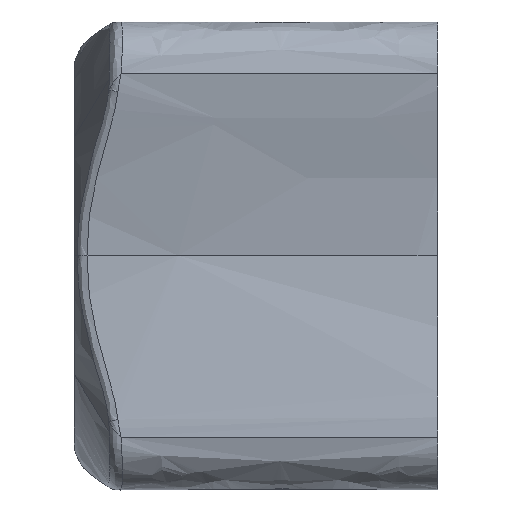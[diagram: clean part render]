
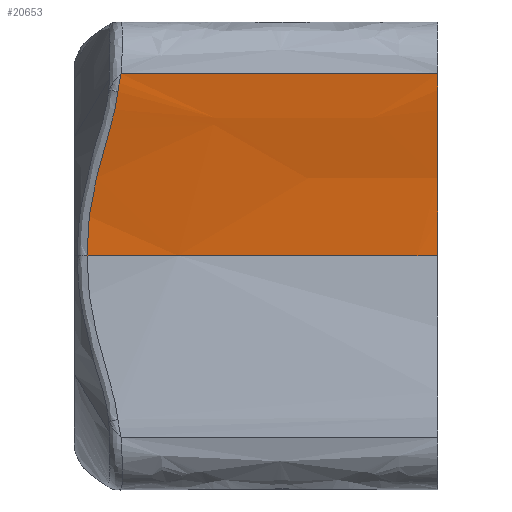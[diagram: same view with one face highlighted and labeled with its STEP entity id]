
A CAD part, top view. The second image highlights one B-rep face of the part: STEP entity #20653.
In plain terms, the highlighted free-form (B-spline) face has degree [5, 1] with [15, 2] control points.
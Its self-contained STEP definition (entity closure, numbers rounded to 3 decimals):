
#20=(
BOUNDED_CURVE()
B_SPLINE_CURVE(5,(#45368,#45369,#45370,#45371,#45372,#45373,#45374),
 .UNSPECIFIED.,.F.,.F.)
B_SPLINE_CURVE_WITH_KNOTS((6,1,6),(-0.136,-0.1,0.),
 .UNSPECIFIED.)
CURVE()
GEOMETRIC_REPRESENTATION_ITEM()
RATIONAL_B_SPLINE_CURVE((1.,1.,1.,1.,1.,1.,1.))
REPRESENTATION_ITEM('')
);
#21=(
BOUNDED_CURVE()
B_SPLINE_CURVE(5,(#45376,#45377,#45378,#45379,#45380,#45381,#45382,#45383,
#45384),.UNSPECIFIED.,.F.,.F.)
B_SPLINE_CURVE_WITH_KNOTS((6,1,1,1,6),(-0.5,-0.4,-0.3,-0.2,-0.136),
 .UNSPECIFIED.)
CURVE()
GEOMETRIC_REPRESENTATION_ITEM()
RATIONAL_B_SPLINE_CURVE((1.,1.,1.,1.,1.,1.,1.,1.,1.))
REPRESENTATION_ITEM('')
);
#34=(
BOUNDED_SURFACE()
B_SPLINE_SURFACE(5,1,((#45746,#45747),(#45748,#45749),(#45750,#45751),(#45752,
#45753),(#45754,#45755),(#45756,#45757),(#45758,#45759),(#45760,#45761),
(#45762,#45763),(#45764,#45765),(#45766,#45767),(#45768,#45769),(#45770,
#45771),(#45772,#45773),(#45774,#45775)),.UNSPECIFIED.,.F.,.F.,.F.)
B_SPLINE_SURFACE_WITH_KNOTS((6,1,1,1,1,1,1,1,1,1,6),(2,2),(-1.,-0.9,-0.8,
-0.7,-0.6,-0.5,-0.4,-0.3,-0.2,-0.1,0.),(0.,48.26),.UNSPECIFIED.)
GEOMETRIC_REPRESENTATION_ITEM()
RATIONAL_B_SPLINE_SURFACE(((1.,1.),(1.,1.),(1.,1.),(1.,1.),(1.,1.),(1.,
1.),(1.,1.),(1.,1.),(1.,1.),(1.,1.),(1.,1.),(1.,1.),(1.,1.),(1.,1.),(1.,
1.)))
REPRESENTATION_ITEM('')
SURFACE()
);
#1798=FACE_OUTER_BOUND('',#3099,.T.);
#3099=EDGE_LOOP('',(#16152,#16153,#16154,#16155,#16156,#16157,#16158,#16159));
#4872=B_SPLINE_CURVE_WITH_KNOTS('',3,(#41540,#41541,#41542,#41543,#41544,
#41545,#41546,#41547,#41548,#41549,#41550,#41551,#41552,#41553,#41554,#41555,
#41556,#41557,#41558),.UNSPECIFIED.,.F.,.F.,(4,1,1,2,1,1,2,2,1,1,1,2,4),
(0.,0.783,1.566,3.131,3.717,
4.303,5.474,6.099,6.305,6.51,
6.921,7.742,8.356),.UNSPECIFIED.);
#4873=B_SPLINE_CURVE_WITH_KNOTS('',3,(#41584,#41585,#41586,#41587,#41588,
#41589),.UNSPECIFIED.,.F.,.F.,(4,2,4),(0.,0.31,
0.814),.UNSPECIFIED.);
#4986=B_SPLINE_CURVE_WITH_KNOTS('',3,(#45777,#45778,#45779,#45780),
 .UNSPECIFIED.,.F.,.F.,(4,4),(-1.016,0.),.UNSPECIFIED.);
#4987=B_SPLINE_CURVE_WITH_KNOTS('',3,(#45782,#45783,#45784,#45785),
 .UNSPECIFIED.,.F.,.F.,(4,4),(-17.156,-12.7),.UNSPECIFIED.);
#4988=B_SPLINE_CURVE_WITH_KNOTS('',3,(#45786,#45787,#45788,#45789,#45790,
#45791),.UNSPECIFIED.,.F.,.F.,(4,2,4),(-12.7,-8.731,-1.016),
 .UNSPECIFIED.);
#6547=LINE('',#45745,#7548);
#7548=VECTOR('',#24889,0.394);
#8818=VERTEX_POINT('',#40557);
#8847=VERTEX_POINT('',#41516);
#8848=VERTEX_POINT('',#41539);
#8989=VERTEX_POINT('',#45341);
#8990=VERTEX_POINT('',#45367);
#8991=VERTEX_POINT('',#45375);
#8998=VERTEX_POINT('',#45776);
#8999=VERTEX_POINT('',#45781);
#11369=EDGE_CURVE('',#8848,#8847,#4872,.T.);
#11371=EDGE_CURVE('',#8818,#8848,#4873,.T.);
#11606=EDGE_CURVE('',#8990,#8989,#20,.T.);
#11607=EDGE_CURVE('',#8991,#8990,#21,.T.);
#11624=EDGE_CURVE('',#8989,#8818,#6547,.T.);
#11625=EDGE_CURVE('',#8998,#8991,#4986,.T.);
#11626=EDGE_CURVE('',#8847,#8999,#4987,.T.);
#11627=EDGE_CURVE('',#8999,#8998,#4988,.T.);
#16152=ORIENTED_EDGE('',*,*,#11625,.T.);
#16153=ORIENTED_EDGE('',*,*,#11607,.T.);
#16154=ORIENTED_EDGE('',*,*,#11606,.T.);
#16155=ORIENTED_EDGE('',*,*,#11624,.T.);
#16156=ORIENTED_EDGE('',*,*,#11371,.T.);
#16157=ORIENTED_EDGE('',*,*,#11369,.T.);
#16158=ORIENTED_EDGE('',*,*,#11626,.T.);
#16159=ORIENTED_EDGE('',*,*,#11627,.T.);
#20653=ADVANCED_FACE('',(#1798),#34,.T.);
#24889=DIRECTION('',(-1.,0.,0.));
#40557=CARTESIAN_POINT('',(0.903,3.5,4.5));
#41516=CARTESIAN_POINT('',(0.246,0.,4.));
#41539=CARTESIAN_POINT('',(0.841,3.157,4.473));
#41540=CARTESIAN_POINT('Ctrl Pts',(0.841,3.157,4.473));
#41541=CARTESIAN_POINT('Ctrl Pts',(0.828,3.051,4.459));
#41542=CARTESIAN_POINT('Ctrl Pts',(0.793,2.846,4.423));
#41543=CARTESIAN_POINT('Ctrl Pts',(0.697,2.449,4.343));
#41544=CARTESIAN_POINT('Ctrl Pts',(0.6,2.163,4.28));
#41545=CARTESIAN_POINT('Ctrl Pts',(0.526,1.898,4.226));
#41546=CARTESIAN_POINT('Ctrl Pts',(0.488,1.753,4.196));
#41547=CARTESIAN_POINT('Ctrl Pts',(0.419,1.462,4.141));
#41548=CARTESIAN_POINT('Ctrl Pts',(0.373,1.243,4.105));
#41549=CARTESIAN_POINT('Ctrl Pts',(0.329,1.018,4.072));
#41550=CARTESIAN_POINT('Ctrl Pts',(0.315,0.939,4.062));
#41551=CARTESIAN_POINT('Ctrl Pts',(0.299,0.834,
4.05));
#41552=CARTESIAN_POINT('Ctrl Pts',(0.292,0.783,
4.044));
#41553=CARTESIAN_POINT('Ctrl Pts',(0.279,0.679,
4.033));
#41554=CARTESIAN_POINT('Ctrl Pts',(0.26,0.496,
4.017));
#41555=CARTESIAN_POINT('Ctrl Pts',(0.251,0.339,
4.008));
#41556=CARTESIAN_POINT('Ctrl Pts',(0.247,0.156,
4.001));
#41557=CARTESIAN_POINT('Ctrl Pts',(0.246,0.078,
4.));
#41558=CARTESIAN_POINT('Ctrl Pts',(0.246,0.,
4.));
#41584=CARTESIAN_POINT('Ctrl Pts',(0.903,3.5,4.5));
#41585=CARTESIAN_POINT('Ctrl Pts',(0.892,3.455,4.5));
#41586=CARTESIAN_POINT('Ctrl Pts',(0.882,3.411,4.498));
#41587=CARTESIAN_POINT('Ctrl Pts',(0.861,3.296,4.49));
#41588=CARTESIAN_POINT('Ctrl Pts',(0.85,3.226,4.482));
#41589=CARTESIAN_POINT('Ctrl Pts',(0.841,3.157,4.473));
#45341=CARTESIAN_POINT('',(7.,3.5,4.5));
#45367=CARTESIAN_POINT('',(7.,2.8,4.413));
#45368=CARTESIAN_POINT('Ctrl Pts',(7.,2.8,4.413));
#45369=CARTESIAN_POINT('Ctrl Pts',(7.,2.845,4.422));
#45370=CARTESIAN_POINT('Ctrl Pts',(7.,3.011,4.453));
#45371=CARTESIAN_POINT('Ctrl Pts',(7.,3.163,4.477));
#45372=CARTESIAN_POINT('Ctrl Pts',(7.,3.3,4.493));
#45373=CARTESIAN_POINT('Ctrl Pts',(7.,3.42,4.5));
#45374=CARTESIAN_POINT('Ctrl Pts',(7.,3.5,4.5));
#45375=CARTESIAN_POINT('',(7.,0.,4.));
#45376=CARTESIAN_POINT('Ctrl Pts',(7.,0.,4.));
#45377=CARTESIAN_POINT('Ctrl Pts',(7.,0.162,4.));
#45378=CARTESIAN_POINT('Ctrl Pts',(7.,0.49,4.01));
#45379=CARTESIAN_POINT('Ctrl Pts',(7.,0.987,4.055));
#45380=CARTESIAN_POINT('Ctrl Pts',(7.,1.585,4.155));
#45381=CARTESIAN_POINT('Ctrl Pts',(7.,2.144,4.276));
#45382=CARTESIAN_POINT('Ctrl Pts',(7.,2.511,4.356));
#45383=CARTESIAN_POINT('Ctrl Pts',(7.,2.721,4.398));
#45384=CARTESIAN_POINT('Ctrl Pts',(7.,2.8,4.413));
#45745=CARTESIAN_POINT('',(7.,3.5,4.5));
#45746=CARTESIAN_POINT('Ctrl Pts',(7.,-3.5,4.5));
#45747=CARTESIAN_POINT('Ctrl Pts',(-12.,-3.5,4.5));
#45748=CARTESIAN_POINT('Ctrl Pts',(7.,-3.381,4.5));
#45749=CARTESIAN_POINT('Ctrl Pts',(-12.,-3.381,4.5));
#45750=CARTESIAN_POINT('Ctrl Pts',(7.,-3.139,4.49));
#45751=CARTESIAN_POINT('Ctrl Pts',(-12.,-3.139,4.49));
#45752=CARTESIAN_POINT('Ctrl Pts',(7.,-2.766,4.445));
#45753=CARTESIAN_POINT('Ctrl Pts',(-12.,-2.766,4.445));
#45754=CARTESIAN_POINT('Ctrl Pts',(7.,-2.247,4.334));
#45755=CARTESIAN_POINT('Ctrl Pts',(-12.,-2.247,4.334));
#45756=CARTESIAN_POINT('Ctrl Pts',(7.,-1.552,4.166));
#45757=CARTESIAN_POINT('Ctrl Pts',(-12.,-1.552,4.166));
#45758=CARTESIAN_POINT('Ctrl Pts',(7.,-0.805,4.028));
#45759=CARTESIAN_POINT('Ctrl Pts',(-12.,-0.805,4.028));
#45760=CARTESIAN_POINT('Ctrl Pts',(7.,-0.008,3.973));
#45761=CARTESIAN_POINT('Ctrl Pts',(-12.,-0.008,3.973));
#45762=CARTESIAN_POINT('Ctrl Pts',(7.,0.822,4.028));
#45763=CARTESIAN_POINT('Ctrl Pts',(-12.,0.822,4.028));
#45764=CARTESIAN_POINT('Ctrl Pts',(7.,1.645,4.166));
#45765=CARTESIAN_POINT('Ctrl Pts',(-12.,1.645,4.166));
#45766=CARTESIAN_POINT('Ctrl Pts',(7.,2.408,4.334));
#45767=CARTESIAN_POINT('Ctrl Pts',(-12.,2.408,4.334));
#45768=CARTESIAN_POINT('Ctrl Pts',(7.,2.926,4.445));
#45769=CARTESIAN_POINT('Ctrl Pts',(-12.,2.926,4.445));
#45770=CARTESIAN_POINT('Ctrl Pts',(7.,3.243,4.49));
#45771=CARTESIAN_POINT('Ctrl Pts',(-12.,3.243,4.49));
#45772=CARTESIAN_POINT('Ctrl Pts',(7.,3.42,4.5));
#45773=CARTESIAN_POINT('Ctrl Pts',(-12.,3.42,4.5));
#45774=CARTESIAN_POINT('Ctrl Pts',(7.,3.5,4.5));
#45775=CARTESIAN_POINT('Ctrl Pts',(-12.,3.5,4.5));
#45776=CARTESIAN_POINT('',(6.6,0.,4.));
#45777=CARTESIAN_POINT('Ctrl Pts',(6.6,0.,4.));
#45778=CARTESIAN_POINT('Ctrl Pts',(6.733,0.,
4.));
#45779=CARTESIAN_POINT('Ctrl Pts',(6.867,0.,
4.));
#45780=CARTESIAN_POINT('Ctrl Pts',(7.,0.,4.));
#45781=CARTESIAN_POINT('',(2.,0.,4.));
#45782=CARTESIAN_POINT('Ctrl Pts',(0.246,0.,
4.));
#45783=CARTESIAN_POINT('Ctrl Pts',(0.83,0.,
4.));
#45784=CARTESIAN_POINT('Ctrl Pts',(1.415,0.,
4.));
#45785=CARTESIAN_POINT('Ctrl Pts',(2.,0.,4.));
#45786=CARTESIAN_POINT('Ctrl Pts',(2.,0.,4.));
#45787=CARTESIAN_POINT('Ctrl Pts',(2.521,0.,
4.));
#45788=CARTESIAN_POINT('Ctrl Pts',(3.042,0.,
4.));
#45789=CARTESIAN_POINT('Ctrl Pts',(4.575,0.,
4.));
#45790=CARTESIAN_POINT('Ctrl Pts',(5.587,0.,
4.));
#45791=CARTESIAN_POINT('Ctrl Pts',(6.6,0.,4.));
